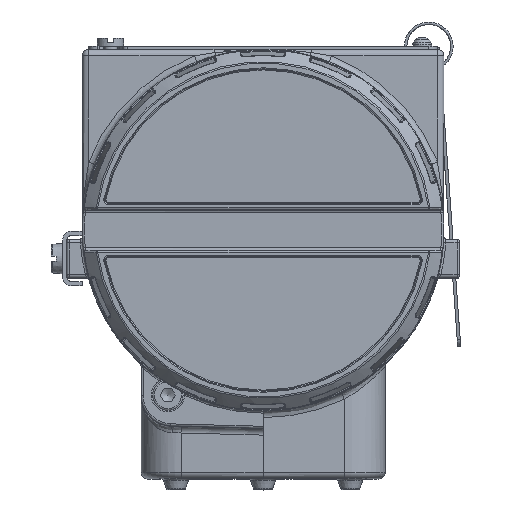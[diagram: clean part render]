
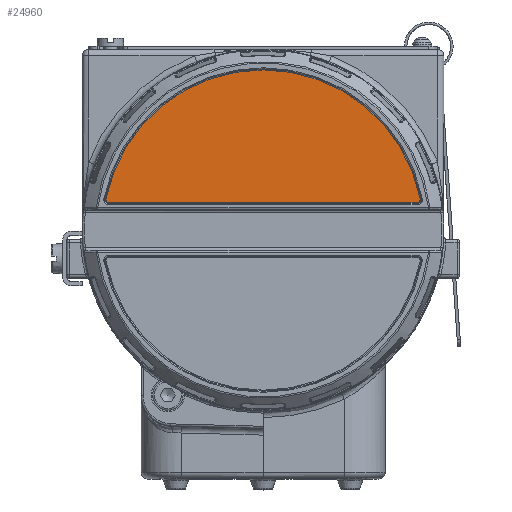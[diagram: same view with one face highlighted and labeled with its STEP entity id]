
A CAD part, top view. The second image highlights one B-rep face of the part: STEP entity #24960.
In plain terms, the highlighted planar face has unit normal (0, 0, 1) as drawn and (1, 0, 0) by its records, which use the part's own axes.
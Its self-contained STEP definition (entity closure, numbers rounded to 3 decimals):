
#1013=PLANE('',#28023);
#2702=FACE_OUTER_BOUND('',#4393,.T.);
#4393=EDGE_LOOP('',(#21106,#21107,#21108,#21109));
#7278=CIRCLE('',#28013,36.736);
#7280=CIRCLE('',#28016,0.736);
#7283=CIRCLE('',#28021,0.736);
#8496=LINE('',#52015,#9401);
#9401=VECTOR('',#34073,10.);
#11249=VERTEX_POINT('',#52001);
#11250=VERTEX_POINT('',#52003);
#11252=VERTEX_POINT('',#52008);
#11253=VERTEX_POINT('',#52013);
#14601=EDGE_CURVE('',#11250,#11249,#7278,.T.);
#14603=EDGE_CURVE('',#11252,#11250,#7280,.T.);
#14606=EDGE_CURVE('',#11253,#11252,#8496,.T.);
#14608=EDGE_CURVE('',#11249,#11253,#7283,.T.);
#21106=ORIENTED_EDGE('',*,*,#14601,.F.);
#21107=ORIENTED_EDGE('',*,*,#14603,.F.);
#21108=ORIENTED_EDGE('',*,*,#14606,.F.);
#21109=ORIENTED_EDGE('',*,*,#14608,.F.);
#24960=ADVANCED_FACE('',(#2702),#1013,.T.);
#28013=AXIS2_PLACEMENT_3D('',#52005,#34059,#34060);
#28016=AXIS2_PLACEMENT_3D('',#52010,#34065,#34066);
#28021=AXIS2_PLACEMENT_3D('',#52018,#34077,#34078);
#28023=AXIS2_PLACEMENT_3D('',#52021,#34082,#34083);
#34059=DIRECTION('center_axis',(-1.,0.,0.));
#34060=DIRECTION('ref_axis',(0.,1.,0.));
#34065=DIRECTION('center_axis',(-1.,0.,0.));
#34066=DIRECTION('ref_axis',(0.,-0.635,0.773));
#34073=DIRECTION('',(0.,0.,1.));
#34077=DIRECTION('center_axis',(-1.,0.,0.));
#34078=DIRECTION('ref_axis',(0.,-0.635,-0.773));
#34082=DIRECTION('center_axis',(1.,0.,0.));
#34083=DIRECTION('ref_axis',(0.,0.,-1.));
#52001=CARTESIAN_POINT('',(-0.5,7.143,-36.035));
#52003=CARTESIAN_POINT('',(-0.5,7.143,36.035));
#52005=CARTESIAN_POINT('Origin',(-0.5,0.,
0.));
#52008=CARTESIAN_POINT('',(-0.5,6.264,35.313));
#52010=CARTESIAN_POINT('Origin',(-0.5,7.,35.313));
#52013=CARTESIAN_POINT('',(-0.5,6.264,-35.313));
#52015=CARTESIAN_POINT('',(-0.5,6.264,17.656));
#52018=CARTESIAN_POINT('Origin',(-0.5,7.,-35.313));
#52021=CARTESIAN_POINT('Origin',(-0.5,16.709,0.));
